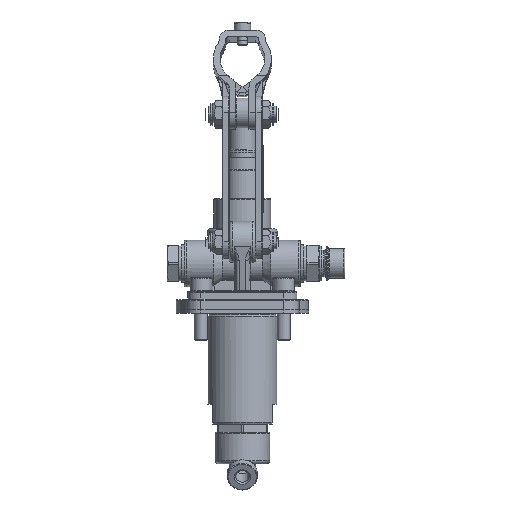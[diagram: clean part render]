
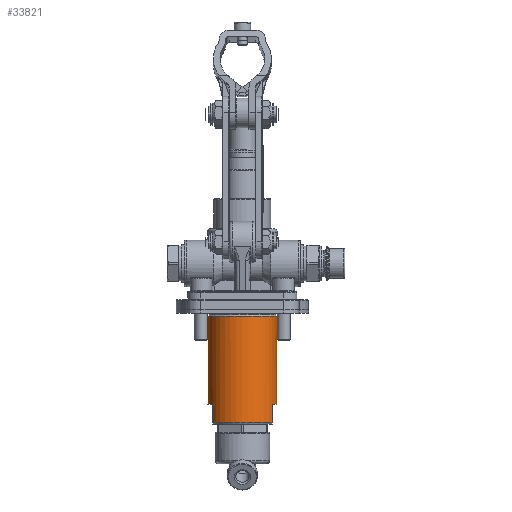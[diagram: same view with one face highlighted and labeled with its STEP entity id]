
A CAD part, left-side view. The second image highlights one B-rep face of the part: STEP entity #33821.
In plain terms, the highlighted cylindrical face has radius 21 mm (diameter 42 mm), a full revolution.
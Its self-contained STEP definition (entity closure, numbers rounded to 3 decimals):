
#4441=FACE_OUTER_BOUND('',#6560,.T.);
#6560=EDGE_LOOP('',(#29376,#29377,#29378,#29379,#29380,#29381,#29382,#29383,
#29384,#29385,#29386,#29387));
#8860=LINE('',#67863,#11161);
#8861=LINE('',#67865,#11162);
#8863=LINE('',#67874,#11164);
#8865=LINE('',#67878,#11166);
#8870=LINE('',#67928,#11171);
#11161=VECTOR('',#45488,10.);
#11162=VECTOR('',#45489,10.);
#11164=VECTOR('',#45493,10.);
#11166=VECTOR('',#45495,10.);
#11171=VECTOR('',#45554,21.);
#12621=CIRCLE('',#36986,21.);
#12622=CIRCLE('',#36990,21.);
#12623=CIRCLE('',#36992,21.);
#12624=CIRCLE('',#36993,21.);
#12636=CIRCLE('',#37013,21.);
#12637=CIRCLE('',#37015,21.);
#15562=VERTEX_POINT('',#67853);
#15563=VERTEX_POINT('',#67854);
#15564=VERTEX_POINT('',#67858);
#15566=VERTEX_POINT('',#67864);
#15568=VERTEX_POINT('',#67872);
#15569=VERTEX_POINT('',#67873);
#15570=VERTEX_POINT('',#67875);
#15571=VERTEX_POINT('',#67877);
#15574=VERTEX_POINT('',#67891);
#15583=VERTEX_POINT('',#67926);
#20162=EDGE_CURVE('',#15562,#15563,#12621,.T.);
#20165=EDGE_CURVE('',#15563,#15564,#8860,.T.);
#20166=EDGE_CURVE('',#15566,#15562,#8861,.T.);
#20169=EDGE_CURVE('',#15568,#15569,#8863,.T.);
#20171=EDGE_CURVE('',#15571,#15570,#8865,.T.);
#20175=EDGE_CURVE('',#15570,#15568,#12622,.T.);
#20176=EDGE_CURVE('',#15566,#15574,#12623,.T.);
#20177=EDGE_CURVE('',#15574,#15569,#12624,.T.);
#20192=EDGE_CURVE('',#15571,#15564,#12636,.T.);
#20193=EDGE_CURVE('',#15583,#15583,#12637,.T.);
#20194=EDGE_CURVE('',#15583,#15574,#8870,.T.);
#29376=ORIENTED_EDGE('',*,*,#20193,.F.);
#29377=ORIENTED_EDGE('',*,*,#20194,.T.);
#29378=ORIENTED_EDGE('',*,*,#20176,.F.);
#29379=ORIENTED_EDGE('',*,*,#20166,.T.);
#29380=ORIENTED_EDGE('',*,*,#20162,.T.);
#29381=ORIENTED_EDGE('',*,*,#20165,.T.);
#29382=ORIENTED_EDGE('',*,*,#20192,.F.);
#29383=ORIENTED_EDGE('',*,*,#20171,.T.);
#29384=ORIENTED_EDGE('',*,*,#20175,.T.);
#29385=ORIENTED_EDGE('',*,*,#20169,.T.);
#29386=ORIENTED_EDGE('',*,*,#20177,.F.);
#29387=ORIENTED_EDGE('',*,*,#20194,.F.);
#30029=CYLINDRICAL_SURFACE('',#37014,21.);
#33821=ADVANCED_FACE('',(#4441),#30029,.T.);
#36986=AXIS2_PLACEMENT_3D('',#67855,#45483,#45484);
#36990=AXIS2_PLACEMENT_3D('',#67889,#45499,#45500);
#36992=AXIS2_PLACEMENT_3D('',#67892,#45503,#45504);
#36993=AXIS2_PLACEMENT_3D('',#67893,#45505,#45506);
#37013=AXIS2_PLACEMENT_3D('',#67924,#45548,#45549);
#37014=AXIS2_PLACEMENT_3D('',#67925,#45550,#45551);
#37015=AXIS2_PLACEMENT_3D('',#67927,#45552,#45553);
#45483=DIRECTION('center_axis',(0.,0.,1.));
#45484=DIRECTION('ref_axis',(1.,0.,0.));
#45488=DIRECTION('',(0.,0.,-1.));
#45489=DIRECTION('',(0.,0.,1.));
#45493=DIRECTION('',(0.,0.,-1.));
#45495=DIRECTION('',(0.,0.,1.));
#45499=DIRECTION('center_axis',(0.,0.,1.));
#45500=DIRECTION('ref_axis',(1.,0.,0.));
#45503=DIRECTION('center_axis',(0.,0.,-1.));
#45504=DIRECTION('ref_axis',(1.,0.,0.));
#45505=DIRECTION('center_axis',(0.,0.,-1.));
#45506=DIRECTION('ref_axis',(1.,0.,0.));
#45548=DIRECTION('center_axis',(0.,0.,-1.));
#45549=DIRECTION('ref_axis',(1.,0.,0.));
#45550=DIRECTION('center_axis',(0.,0.,1.));
#45551=DIRECTION('ref_axis',(1.,0.,0.));
#45552=DIRECTION('center_axis',(0.,0.,1.));
#45553=DIRECTION('ref_axis',(1.,0.,0.));
#45554=DIRECTION('',(0.,0.,-1.));
#67853=CARTESIAN_POINT('',(48.183,16.,-56.));
#67854=CARTESIAN_POINT('',(69.817,16.,-56.));
#67855=CARTESIAN_POINT('Origin',(59.,34.,-56.));
#67858=CARTESIAN_POINT('',(69.817,16.,-67.));
#67863=CARTESIAN_POINT('',(69.817,16.,-68.));
#67864=CARTESIAN_POINT('',(48.183,16.,-67.));
#67865=CARTESIAN_POINT('',(48.183,16.,-68.));
#67872=CARTESIAN_POINT('',(48.183,52.,-56.));
#67873=CARTESIAN_POINT('',(48.183,52.,-67.));
#67874=CARTESIAN_POINT('',(48.183,52.,-68.));
#67875=CARTESIAN_POINT('',(69.817,52.,-56.));
#67877=CARTESIAN_POINT('',(69.817,52.,-67.));
#67878=CARTESIAN_POINT('',(69.817,52.,-68.));
#67889=CARTESIAN_POINT('Origin',(59.,34.,-56.));
#67891=CARTESIAN_POINT('',(38.,34.,-67.));
#67892=CARTESIAN_POINT('Origin',(59.,34.,-67.));
#67893=CARTESIAN_POINT('Origin',(59.,34.,-67.));
#67924=CARTESIAN_POINT('Origin',(59.,34.,-67.));
#67925=CARTESIAN_POINT('Origin',(59.,34.,-68.));
#67926=CARTESIAN_POINT('',(38.,34.,-3.));
#67927=CARTESIAN_POINT('Origin',(59.,34.,-3.));
#67928=CARTESIAN_POINT('',(38.,34.,-68.));
